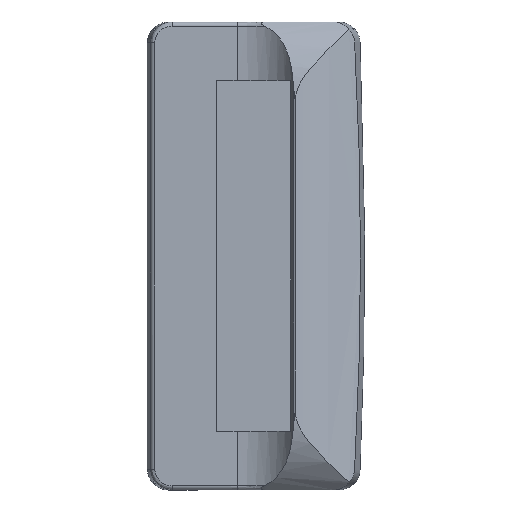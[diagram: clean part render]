
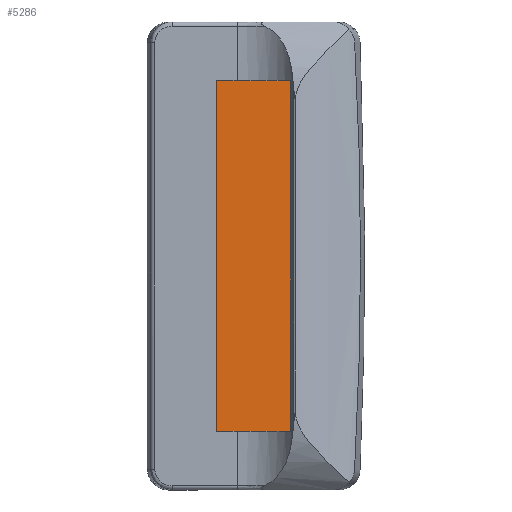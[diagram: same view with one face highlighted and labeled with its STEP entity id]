
A CAD part, top view. The second image highlights one B-rep face of the part: STEP entity #5286.
In plain terms, the highlighted planar face has unit normal (0, 0, 1).
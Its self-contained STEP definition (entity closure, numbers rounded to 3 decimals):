
#178 = ORIENTED_EDGE ( 'NONE', *, *, #179, .T. ) ;
#179 = EDGE_CURVE ( 'NONE', #192, #213, #3888, .T. ) ;
#183 = EDGE_CURVE ( 'NONE', #213, #185, #3942, .T. ) ;
#185 = VERTEX_POINT ( 'NONE', #3933 ) ;
#187 = ORIENTED_EDGE ( 'NONE', *, *, #195, .T. ) ;
#188 = ORIENTED_EDGE ( 'NONE', *, *, #183, .T. ) ;
#190 = VERTEX_POINT ( 'NONE', #3932 ) ;
#192 = VERTEX_POINT ( 'NONE', #3931 ) ;
#195 = EDGE_CURVE ( 'NONE', #190, #192, #3924, .T. ) ;
#213 = VERTEX_POINT ( 'NONE', #3961 ) ;
#216 = ORIENTED_EDGE ( 'NONE', *, *, #5358, .T. ) ;
#1861 = CARTESIAN_POINT ( 'NONE',  ( 153.87, 311.163, -9.75 ) ) ;
#1873 = DIRECTION ( 'NONE',  ( 1., 0., 0. ) ) ;
#1874 = DIRECTION ( 'NONE',  ( 0., 0., 1. ) ) ;
#1876 = CARTESIAN_POINT ( 'NONE',  ( 142.62, 268.513, -9.75 ) ) ;
#1877 = AXIS2_PLACEMENT_3D ( 'NONE', #1876, #1874, #1873 ) ;
#1878 = FACE_OUTER_BOUND ( 'NONE', #5280, .T. ) ;
#1884 = PLANE ( 'NONE',  #1877 ) ;
#2073 = DIRECTION ( 'NONE',  ( -1., 0., 0. ) ) ;
#2074 = DIRECTION ( 'NONE',  ( 0., 0., 1. ) ) ;
#2075 = CARTESIAN_POINT ( 'NONE',  ( 153.87, 230.263, -9.75 ) ) ;
#2076 = AXIS2_PLACEMENT_3D ( 'NONE', #2075, #2074, #2073 ) ;
#2077 = CIRCLE ( 'NONE', #2076, 4.4 ) ;
#2086 = CARTESIAN_POINT ( 'NONE',  ( 153.87, 225.863, -9.75 ) ) ;
#2093 = CARTESIAN_POINT ( 'NONE',  ( 158.27, 230.263, -9.75 ) ) ;
#2115 = DIRECTION ( 'NONE',  ( 1., 0., 0. ) ) ;
#2116 = VECTOR ( 'NONE', #2115, 1000. ) ;
#2117 = CARTESIAN_POINT ( 'NONE',  ( 131.37, 225.863, -9.75 ) ) ;
#2118 = LINE ( 'NONE', #2117, #2116 ) ;
#2119 = DIRECTION ( 'NONE',  ( -1., 0., 0. ) ) ;
#2120 = DIRECTION ( 'NONE',  ( 0., 0., 1. ) ) ;
#2121 = CARTESIAN_POINT ( 'NONE',  ( 153.87, 306.763, -9.75 ) ) ;
#2122 = AXIS2_PLACEMENT_3D ( 'NONE', #2121, #2120, #2119 ) ;
#2123 = CIRCLE ( 'NONE', #2122, 4.4 ) ;
#2129 = CARTESIAN_POINT ( 'NONE',  ( 158.27, 306.763, -9.75 ) ) ;
#2130 = DIRECTION ( 'NONE',  ( 0., 1., 0. ) ) ;
#2131 = VECTOR ( 'NONE', #2130, 1000. ) ;
#2132 = CARTESIAN_POINT ( 'NONE',  ( 158.27, 230.263, -9.75 ) ) ;
#2133 = LINE ( 'NONE', #2132, #2131 ) ;
#2141 = DIRECTION ( 'NONE',  ( -1., 0., 0. ) ) ;
#2142 = VECTOR ( 'NONE', #2141, 1000. ) ;
#2143 = CARTESIAN_POINT ( 'NONE',  ( 153.87, 311.163, -9.75 ) ) ;
#2144 = LINE ( 'NONE', #2143, #2142 ) ;
#3888 = LINE ( 'NONE', #3951, #3950 ) ;
#3920 = DIRECTION ( 'NONE',  ( -1., 0., 0. ) ) ;
#3921 = DIRECTION ( 'NONE',  ( 0., 0., 1. ) ) ;
#3922 = CARTESIAN_POINT ( 'NONE',  ( 131.37, 306.763, -9.75 ) ) ;
#3923 = AXIS2_PLACEMENT_3D ( 'NONE', #3922, #3921, #3920 ) ;
#3924 = CIRCLE ( 'NONE', #3923, 4.4 ) ;
#3931 = CARTESIAN_POINT ( 'NONE',  ( 126.97, 306.763, -9.75 ) ) ;
#3932 = CARTESIAN_POINT ( 'NONE',  ( 131.37, 311.163, -9.75 ) ) ;
#3933 = CARTESIAN_POINT ( 'NONE',  ( 131.37, 225.863, -9.75 ) ) ;
#3938 = DIRECTION ( 'NONE',  ( -1., 0., 0. ) ) ;
#3939 = DIRECTION ( 'NONE',  ( 0., 0., 1. ) ) ;
#3940 = CARTESIAN_POINT ( 'NONE',  ( 131.37, 230.263, -9.75 ) ) ;
#3941 = AXIS2_PLACEMENT_3D ( 'NONE', #3940, #3939, #3938 ) ;
#3942 = CIRCLE ( 'NONE', #3941, 4.4 ) ;
#3949 = DIRECTION ( 'NONE',  ( 0., -1., 0. ) ) ;
#3950 = VECTOR ( 'NONE', #3949, 1000. ) ;
#3951 = CARTESIAN_POINT ( 'NONE',  ( 126.97, 306.763, -9.75 ) ) ;
#3961 = CARTESIAN_POINT ( 'NONE',  ( 126.97, 230.263, -9.75 ) ) ;
#5256 = VERTEX_POINT ( 'NONE', #1861 ) ;
#5280 = EDGE_LOOP ( 'NONE', ( #5281, #5318, #5284, #5362, #187, #178, #188, #216 ) ) ;
#5281 = ORIENTED_EDGE ( 'NONE', *, *, #5352, .T. ) ;
#5284 = ORIENTED_EDGE ( 'NONE', *, *, #5357, .T. ) ;
#5286 = ADVANCED_FACE ( 'NONE', ( #1878 ), #1884, .T. ) ;
#5318 = ORIENTED_EDGE ( 'NONE', *, *, #5354, .T. ) ;
#5340 = VERTEX_POINT ( 'NONE', #2093 ) ;
#5348 = VERTEX_POINT ( 'NONE', #2086 ) ;
#5352 = EDGE_CURVE ( 'NONE', #5348, #5340, #2077, .T. ) ;
#5354 = EDGE_CURVE ( 'NONE', #5340, #5355, #2133, .T. ) ;
#5355 = VERTEX_POINT ( 'NONE', #2129 ) ;
#5357 = EDGE_CURVE ( 'NONE', #5355, #5256, #2123, .T. ) ;
#5358 = EDGE_CURVE ( 'NONE', #185, #5348, #2118, .T. ) ;
#5362 = ORIENTED_EDGE ( 'NONE', *, *, #5374, .T. ) ;
#5374 = EDGE_CURVE ( 'NONE', #5256, #190, #2144, .T. ) ;
